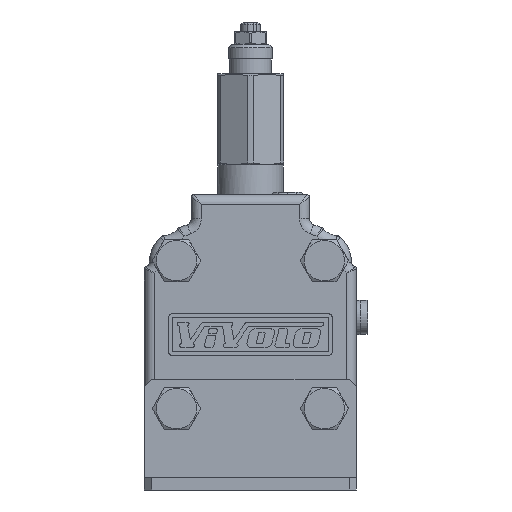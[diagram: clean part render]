
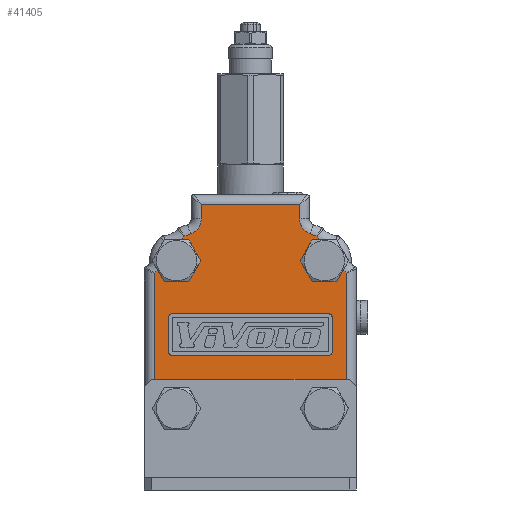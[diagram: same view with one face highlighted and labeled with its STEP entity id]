
A CAD part, front view. The second image highlights one B-rep face of the part: STEP entity #41405.
In plain terms, the highlighted planar face has unit normal (0, -1, 0).
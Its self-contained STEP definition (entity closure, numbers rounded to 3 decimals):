
#1649=CIRCLE('',#43350,1.53);
#1650=CIRCLE('',#43353,1.53);
#1651=CIRCLE('',#43356,1.53);
#1652=CIRCLE('',#43359,1.53);
#1653=CIRCLE('',#43362,8.);
#1656=CIRCLE('',#43366,8.);
#1670=CIRCLE('',#43403,6.002);
#1671=CIRCLE('',#43404,6.002);
#1672=CIRCLE('',#43405,12.);
#1673=CIRCLE('',#43406,6.5);
#1674=CIRCLE('',#43407,6.5);
#1675=CIRCLE('',#43408,12.);
#4894=ORIENTED_EDGE('',*,*,#12814,.T.);
#4895=ORIENTED_EDGE('',*,*,#12860,.T.);
#4896=ORIENTED_EDGE('',*,*,#12861,.T.);
#4897=ORIENTED_EDGE('',*,*,#12821,.T.);
#4898=ORIENTED_EDGE('',*,*,#12862,.T.);
#4899=ORIENTED_EDGE('',*,*,#12863,.T.);
#4900=ORIENTED_EDGE('',*,*,#12811,.T.);
#4901=ORIENTED_EDGE('',*,*,#12864,.T.);
#4902=ORIENTED_EDGE('',*,*,#12865,.T.);
#4903=ORIENTED_EDGE('',*,*,#12866,.T.);
#4904=ORIENTED_EDGE('',*,*,#12867,.T.);
#4905=ORIENTED_EDGE('',*,*,#12868,.T.);
#4906=ORIENTED_EDGE('',*,*,#12869,.T.);
#4907=ORIENTED_EDGE('',*,*,#12870,.T.);
#4908=ORIENTED_EDGE('',*,*,#12871,.T.);
#4909=ORIENTED_EDGE('',*,*,#12872,.T.);
#4910=ORIENTED_EDGE('',*,*,#12810,.F.);
#4911=ORIENTED_EDGE('',*,*,#12808,.F.);
#4912=ORIENTED_EDGE('',*,*,#12806,.F.);
#4913=ORIENTED_EDGE('',*,*,#12804,.F.);
#4914=ORIENTED_EDGE('',*,*,#12802,.F.);
#4915=ORIENTED_EDGE('',*,*,#12800,.F.);
#4916=ORIENTED_EDGE('',*,*,#12798,.F.);
#4917=ORIENTED_EDGE('',*,*,#12795,.F.);
#12795=EDGE_CURVE('',#16937,#16938,#1649,.T.);
#12798=EDGE_CURVE('',#16938,#16939,#19826,.T.);
#12800=EDGE_CURVE('',#16939,#16940,#1650,.T.);
#12802=EDGE_CURVE('',#16940,#16941,#19829,.T.);
#12804=EDGE_CURVE('',#16941,#16942,#1651,.T.);
#12806=EDGE_CURVE('',#16942,#16943,#19832,.T.);
#12808=EDGE_CURVE('',#16943,#16944,#1652,.T.);
#12810=EDGE_CURVE('',#16944,#16937,#19835,.T.);
#12811=EDGE_CURVE('',#16945,#16946,#1653,.T.);
#12814=EDGE_CURVE('',#16948,#16947,#1656,.T.);
#12821=EDGE_CURVE('',#16952,#16953,#19842,.T.);
#12860=EDGE_CURVE('',#16947,#16981,#1670,.F.);
#12861=EDGE_CURVE('',#16981,#16952,#19868,.T.);
#12862=EDGE_CURVE('',#16953,#16982,#19869,.T.);
#12863=EDGE_CURVE('',#16982,#16945,#1671,.F.);
#12864=EDGE_CURVE('',#16946,#16983,#1672,.F.);
#12865=EDGE_CURVE('',#16983,#16984,#19870,.T.);
#12866=EDGE_CURVE('',#16984,#16985,#1673,.F.);
#12867=EDGE_CURVE('',#16985,#16986,#19871,.T.);
#12868=EDGE_CURVE('',#16986,#16987,#19872,.T.);
#12869=EDGE_CURVE('',#16987,#16988,#19873,.T.);
#12870=EDGE_CURVE('',#16988,#16989,#1674,.F.);
#12871=EDGE_CURVE('',#16989,#16990,#19874,.T.);
#12872=EDGE_CURVE('',#16990,#16948,#1675,.F.);
#16937=VERTEX_POINT('',#59845);
#16938=VERTEX_POINT('',#59846);
#16939=VERTEX_POINT('',#59851);
#16940=VERTEX_POINT('',#59855);
#16941=VERTEX_POINT('',#59859);
#16942=VERTEX_POINT('',#59863);
#16943=VERTEX_POINT('',#59867);
#16944=VERTEX_POINT('',#59871);
#16945=VERTEX_POINT('',#59877);
#16946=VERTEX_POINT('',#59878);
#16947=VERTEX_POINT('',#59882);
#16948=VERTEX_POINT('',#59883);
#16952=VERTEX_POINT('',#59894);
#16953=VERTEX_POINT('',#59897);
#16981=VERTEX_POINT('',#59986);
#16982=VERTEX_POINT('',#59989);
#16983=VERTEX_POINT('',#59992);
#16984=VERTEX_POINT('',#59994);
#16985=VERTEX_POINT('',#59996);
#16986=VERTEX_POINT('',#59998);
#16987=VERTEX_POINT('',#60000);
#16988=VERTEX_POINT('',#60002);
#16989=VERTEX_POINT('',#60004);
#16990=VERTEX_POINT('',#60006);
#19826=LINE('',#59850,#22170);
#19829=LINE('',#59858,#22173);
#19832=LINE('',#59866,#22176);
#19835=LINE('',#59874,#22179);
#19842=LINE('',#59898,#22186);
#19868=LINE('',#59987,#22212);
#19869=LINE('',#59988,#22213);
#19870=LINE('',#59993,#22214);
#19871=LINE('',#59997,#22215);
#19872=LINE('',#59999,#22216);
#19873=LINE('',#60001,#22217);
#19874=LINE('',#60005,#22218);
#22170=VECTOR('',#47852,1000.);
#22173=VECTOR('',#47861,1000.);
#22176=VECTOR('',#47870,1000.);
#22179=VECTOR('',#47879,1000.);
#22186=VECTOR('',#47902,1000.);
#22212=VECTOR('',#47998,1000.);
#22213=VECTOR('',#47999,1000.);
#22214=VECTOR('',#48004,1000.);
#22215=VECTOR('',#48007,1000.);
#22216=VECTOR('',#48008,1000.);
#22217=VECTOR('',#48009,1000.);
#22218=VECTOR('',#48012,1000.);
#24433=EDGE_LOOP('',(#4894,#4895,#4896,#4897,#4898,#4899,#4900,#4901,#4902,
#4903,#4904,#4905,#4906,#4907,#4908,#4909));
#24434=EDGE_LOOP('',(#4910,#4911,#4912,#4913,#4914,#4915,#4916,#4917));
#26456=FACE_BOUND('',#24433,.T.);
#26457=FACE_BOUND('',#24434,.T.);
#28277=PLANE('',#43402);
#41405=ADVANCED_FACE('',(#26456,#26457),#28277,.T.);
#43350=AXIS2_PLACEMENT_3D('',#59844,#47846,#47847);
#43353=AXIS2_PLACEMENT_3D('',#59854,#47856,#47857);
#43356=AXIS2_PLACEMENT_3D('',#59862,#47865,#47866);
#43359=AXIS2_PLACEMENT_3D('',#59870,#47874,#47875);
#43362=AXIS2_PLACEMENT_3D('',#59876,#47882,#47883);
#43366=AXIS2_PLACEMENT_3D('',#59884,#47890,#47891);
#43402=AXIS2_PLACEMENT_3D('',#59984,#47994,#47995);
#43403=AXIS2_PLACEMENT_3D('',#59985,#47996,#47997);
#43404=AXIS2_PLACEMENT_3D('',#59990,#48000,#48001);
#43405=AXIS2_PLACEMENT_3D('',#59991,#48002,#48003);
#43406=AXIS2_PLACEMENT_3D('',#59995,#48005,#48006);
#43407=AXIS2_PLACEMENT_3D('',#60003,#48010,#48011);
#43408=AXIS2_PLACEMENT_3D('',#60007,#48013,#48014);
#47846=DIRECTION('',(0.,-1.,0.));
#47847=DIRECTION('',(1.,0.,0.));
#47852=DIRECTION('',(-1.,0.,0.));
#47856=DIRECTION('',(0.,-1.,0.));
#47857=DIRECTION('',(1.,0.,0.));
#47861=DIRECTION('',(0.,0.,-1.));
#47865=DIRECTION('',(0.,-1.,0.));
#47866=DIRECTION('',(1.,0.,0.));
#47870=DIRECTION('',(1.,0.,0.));
#47874=DIRECTION('',(0.,-1.,0.));
#47875=DIRECTION('',(-1.,0.,0.));
#47879=DIRECTION('',(0.,0.,1.));
#47882=DIRECTION('',(0.,1.,0.));
#47883=DIRECTION('',(1.,0.,0.));
#47890=DIRECTION('',(0.,1.,0.));
#47891=DIRECTION('',(1.,0.,0.));
#47902=DIRECTION('',(1.,0.,0.));
#47994=DIRECTION('',(0.,-1.,0.));
#47995=DIRECTION('',(0.,0.,1.));
#47996=DIRECTION('',(0.,-1.,0.));
#47997=DIRECTION('',(0.,0.,1.));
#47998=DIRECTION('',(0.,0.,-1.));
#47999=DIRECTION('',(0.,0.,1.));
#48000=DIRECTION('',(0.,-1.,0.));
#48001=DIRECTION('',(0.,0.,1.));
#48002=DIRECTION('',(0.,-1.,0.));
#48003=DIRECTION('',(0.,0.,1.));
#48004=DIRECTION('',(-0.94,0.,0.342));
#48005=DIRECTION('',(0.,-1.,0.));
#48006=DIRECTION('',(0.,0.,1.));
#48007=DIRECTION('',(0.,0.,1.));
#48008=DIRECTION('',(-1.,0.,0.));
#48009=DIRECTION('',(0.,0.,-1.));
#48010=DIRECTION('',(0.,-1.,0.));
#48011=DIRECTION('',(0.,0.,1.));
#48012=DIRECTION('',(-0.94,0.,-0.342));
#48013=DIRECTION('',(0.,-1.,0.));
#48014=DIRECTION('',(0.,0.,1.));
#59844=CARTESIAN_POINT('',(31.655,-44.,6.934));
#59845=CARTESIAN_POINT('',(33.185,-44.,6.934));
#59846=CARTESIAN_POINT('',(31.655,-44.,8.464));
#59850=CARTESIAN_POINT('',(31.655,-44.,8.464));
#59851=CARTESIAN_POINT('',(-31.655,-44.,8.464));
#59854=CARTESIAN_POINT('',(-31.655,-44.,6.934));
#59855=CARTESIAN_POINT('',(-33.185,-44.,6.934));
#59858=CARTESIAN_POINT('',(-33.185,-44.,6.934));
#59859=CARTESIAN_POINT('',(-33.185,-44.,-6.934));
#59862=CARTESIAN_POINT('',(-31.655,-44.,-6.934));
#59863=CARTESIAN_POINT('',(-31.655,-44.,-8.464));
#59866=CARTESIAN_POINT('',(-31.655,-44.,-8.464));
#59867=CARTESIAN_POINT('',(31.655,-44.,-8.464));
#59870=CARTESIAN_POINT('',(31.655,-44.,-6.934));
#59871=CARTESIAN_POINT('',(33.185,-44.,-6.934));
#59874=CARTESIAN_POINT('',(33.185,-44.,-6.934));
#59876=CARTESIAN_POINT('',(30.,-44.,30.));
#59877=CARTESIAN_POINT('',(37.476,-44.,27.152));
#59878=CARTESIAN_POINT('',(29.316,-44.,37.971));
#59882=CARTESIAN_POINT('',(-37.476,-44.,27.152));
#59883=CARTESIAN_POINT('',(-29.316,-44.,37.971));
#59884=CARTESIAN_POINT('',(-30.,-44.,30.));
#59894=CARTESIAN_POINT('',(-39.,-44.,-18.));
#59897=CARTESIAN_POINT('',(39.,-44.,-18.));
#59898=CARTESIAN_POINT('',(-40.,-44.,-18.));
#59984=CARTESIAN_POINT('',(23.,-44.,-55.85));
#59985=CARTESIAN_POINT('',(-43.,-44.,29.5));
#59986=CARTESIAN_POINT('',(-39.,-44.,25.025));
#59987=CARTESIAN_POINT('',(-39.,-44.,-26.669));
#59988=CARTESIAN_POINT('',(39.,-44.,26.669));
#59989=CARTESIAN_POINT('',(39.,-44.,25.025));
#59990=CARTESIAN_POINT('',(43.,-44.,29.5));
#59991=CARTESIAN_POINT('',(35.75,-44.,48.1));
#59992=CARTESIAN_POINT('',(27.008,-44.,39.88));
#59993=CARTESIAN_POINT('',(24.275,-44.,40.875));
#59994=CARTESIAN_POINT('',(24.275,-44.,40.875));
#59995=CARTESIAN_POINT('',(26.5,-44.,46.983));
#59996=CARTESIAN_POINT('',(20.,-44.,46.983));
#59997=CARTESIAN_POINT('',(20.,-44.,55.85));
#59998=CARTESIAN_POINT('',(20.,-44.,52.85));
#59999=CARTESIAN_POINT('',(-23.,-44.,52.85));
#60000=CARTESIAN_POINT('',(-20.,-44.,52.85));
#60001=CARTESIAN_POINT('',(-20.,-44.,46.983));
#60002=CARTESIAN_POINT('',(-20.,-44.,46.983));
#60003=CARTESIAN_POINT('',(-26.5,-44.,46.983));
#60004=CARTESIAN_POINT('',(-24.275,-44.,40.875));
#60005=CARTESIAN_POINT('',(-27.476,-44.,39.709));
#60006=CARTESIAN_POINT('',(-27.008,-44.,39.88));
#60007=CARTESIAN_POINT('',(-35.75,-44.,48.1));
